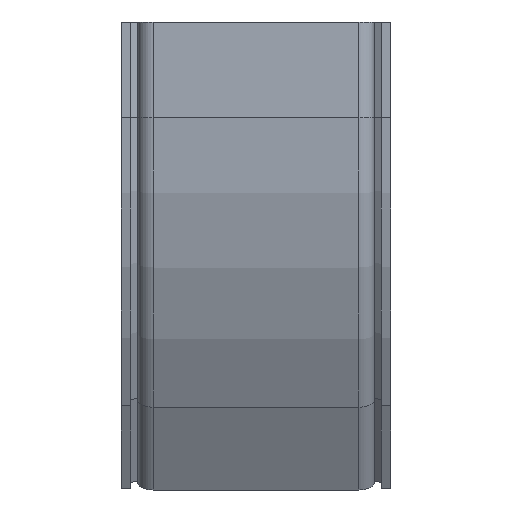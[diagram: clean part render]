
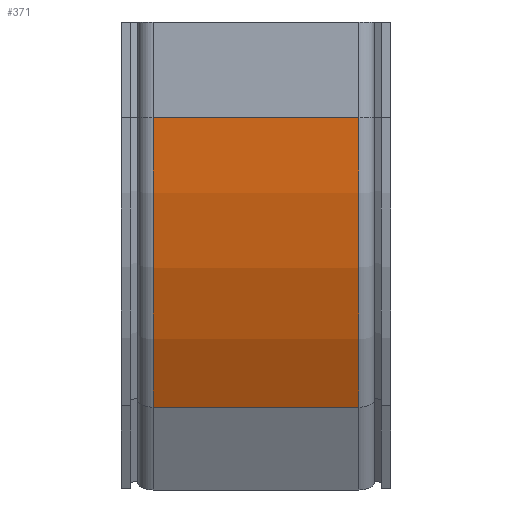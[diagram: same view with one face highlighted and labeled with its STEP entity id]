
A CAD part, left-side view. The second image highlights one B-rep face of the part: STEP entity #371.
In plain terms, the highlighted cylindrical face has radius 242.5 mm (diameter 485 mm), a partial arc.
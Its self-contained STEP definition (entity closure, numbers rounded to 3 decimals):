
#308 = DIRECTION ( 'NONE',  ( 0., 0., 1. ) ) ;
#371 = ADVANCED_FACE ( 'NONE', ( #2486 ), #2460, .T. ) ;
#381 = CARTESIAN_POINT ( 'NONE',  ( -10.011, 43., -161.25 ) ) ;
#644 = VECTOR ( 'NONE', #1840, 1000. ) ;
#727 = LINE ( 'NONE', #1810, #644 ) ;
#842 = CARTESIAN_POINT ( 'NONE',  ( -42.5, 43., -40. ) ) ;
#1374 = DIRECTION ( 'NONE',  ( 0., -1., 0. ) ) ;
#1601 = DIRECTION ( 'NONE',  ( 0., 1., 0. ) ) ;
#1631 = LINE ( 'NONE', #381, #1676 ) ;
#1639 = CIRCLE ( 'NONE', #4647, 242.5 ) ;
#1649 = CIRCLE ( 'NONE', #5570, 242.5 ) ;
#1676 = VECTOR ( 'NONE', #1374, 1000. ) ;
#1778 = VERTEX_POINT ( 'NONE', #2113 ) ;
#1810 = CARTESIAN_POINT ( 'NONE',  ( -42.5, 0., -40. ) ) ;
#1840 = DIRECTION ( 'NONE',  ( 0., 1., 0. ) ) ;
#2113 = CARTESIAN_POINT ( 'NONE',  ( -10.011, 43., -161.25 ) ) ;
#2167 = DIRECTION ( 'NONE',  ( 0., 0., 1. ) ) ;
#2172 = AXIS2_PLACEMENT_3D ( 'NONE', #2399, #5224, #3764 ) ;
#2186 = CARTESIAN_POINT ( 'NONE',  ( 200., 43., -40. ) ) ;
#2335 = EDGE_CURVE ( 'NONE', #2550, #4862, #727, .T. ) ;
#2399 = CARTESIAN_POINT ( 'NONE',  ( 200., 0., -40. ) ) ;
#2460 = CYLINDRICAL_SURFACE ( 'NONE', #2172, 242.5 ) ;
#2486 = FACE_OUTER_BOUND ( 'NONE', #2988, .T. ) ;
#2550 = VERTEX_POINT ( 'NONE', #4823 ) ;
#2780 = CARTESIAN_POINT ( 'NONE',  ( 200., -43., -40. ) ) ;
#2988 = EDGE_LOOP ( 'NONE', ( #3712, #3707, #3690, #3677 ) ) ;
#3677 = ORIENTED_EDGE ( 'NONE', *, *, #4086, .T. ) ;
#3690 = ORIENTED_EDGE ( 'NONE', *, *, #4085, .T. ) ;
#3707 = ORIENTED_EDGE ( 'NONE', *, *, #4080, .F. ) ;
#3712 = ORIENTED_EDGE ( 'NONE', *, *, #2335, .T. ) ;
#3722 = VERTEX_POINT ( 'NONE', #4636 ) ;
#3764 = DIRECTION ( 'NONE',  ( 0., 0., 1. ) ) ;
#4080 = EDGE_CURVE ( 'NONE', #1778, #4862, #1649, .T. ) ;
#4085 = EDGE_CURVE ( 'NONE', #1778, #3722, #1631, .T. ) ;
#4086 = EDGE_CURVE ( 'NONE', #3722, #2550, #1639, .T. ) ;
#4634 = DIRECTION ( 'NONE',  ( 0., 1., 0. ) ) ;
#4636 = CARTESIAN_POINT ( 'NONE',  ( -10.011, -43., -161.25 ) ) ;
#4647 = AXIS2_PLACEMENT_3D ( 'NONE', #2780, #1601, #308 ) ;
#4823 = CARTESIAN_POINT ( 'NONE',  ( -42.5, -43., -40. ) ) ;
#4862 = VERTEX_POINT ( 'NONE', #842 ) ;
#5224 = DIRECTION ( 'NONE',  ( 0., 1., 0. ) ) ;
#5570 = AXIS2_PLACEMENT_3D ( 'NONE', #2186, #4634, #2167 ) ;
